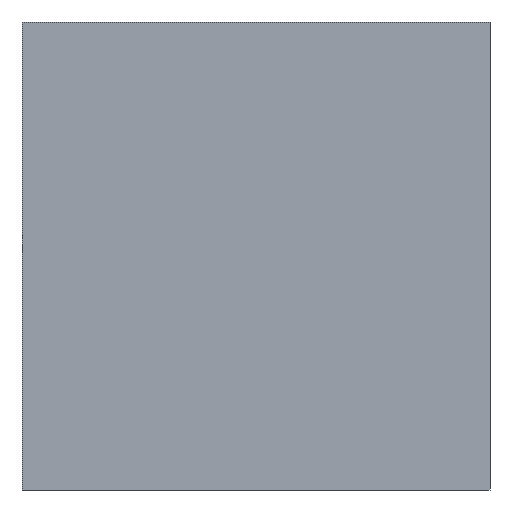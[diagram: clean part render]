
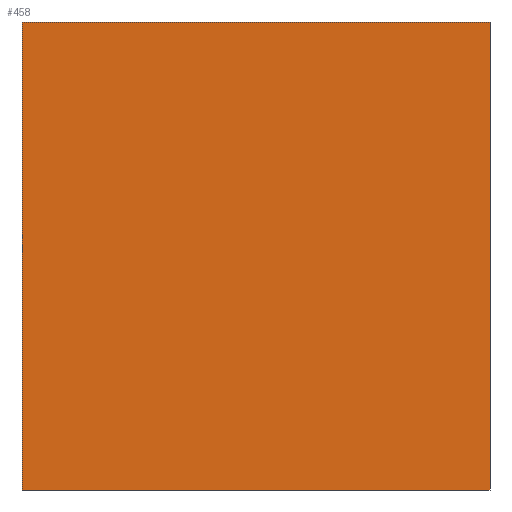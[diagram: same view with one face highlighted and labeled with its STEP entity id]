
A CAD part, left-side view. The second image highlights one B-rep face of the part: STEP entity #458.
In plain terms, the highlighted planar face has unit normal (-1, 0, 0).
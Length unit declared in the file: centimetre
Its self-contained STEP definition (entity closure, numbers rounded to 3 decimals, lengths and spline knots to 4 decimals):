
#9 = ORIENTED_EDGE ( 'NONE', *, *, #931, .T. ) ;
#41 = VERTEX_POINT ( 'NONE', #454 ) ;
#64 = PLANE ( 'NONE',  #143 ) ;
#83 = DIRECTION ( 'NONE',  ( 0., 0., -1. ) ) ;
#101 = VECTOR ( 'NONE', #306, 100. ) ;
#102 = ORIENTED_EDGE ( 'NONE', *, *, #136, .F. ) ;
#119 = DIRECTION ( 'NONE',  ( 0., -1., 0. ) ) ;
#136 = EDGE_CURVE ( 'NONE', #973, #491, #1011, .T. ) ;
#143 = AXIS2_PLACEMENT_3D ( 'NONE', #533, #996, #918 ) ;
#180 = ORIENTED_EDGE ( 'NONE', *, *, #828, .T. ) ;
#252 = CARTESIAN_POINT ( 'NONE',  ( 0., 1000., 1000. ) ) ;
#291 = FACE_OUTER_BOUND ( 'NONE', #337, .T. ) ;
#301 = CARTESIAN_POINT ( 'NONE',  ( 0., 0., 1000. ) ) ;
#306 = DIRECTION ( 'NONE',  ( 0., -1., 0. ) ) ;
#319 = VECTOR ( 'NONE', #83, 100. ) ;
#337 = EDGE_LOOP ( 'NONE', ( #9, #838, #102, #180 ) ) ;
#424 = DIRECTION ( 'NONE',  ( 0., 0., -1. ) ) ;
#454 = CARTESIAN_POINT ( 'NONE',  ( 0., 1000., 0. ) ) ;
#458 = ADVANCED_FACE ( 'NONE', ( #291 ), #64, .F. ) ;
#471 = VERTEX_POINT ( 'NONE', #839 ) ;
#491 = VERTEX_POINT ( 'NONE', #301 ) ;
#503 = CARTESIAN_POINT ( 'NONE',  ( 0., 1000., 0. ) ) ;
#533 = CARTESIAN_POINT ( 'NONE',  ( 0., 1000., 1000. ) ) ;
#613 = EDGE_CURVE ( 'NONE', #491, #471, #635, .T. ) ;
#635 = LINE ( 'NONE', #941, #319 ) ;
#660 = LINE ( 'NONE', #503, #923 ) ;
#754 = CARTESIAN_POINT ( 'NONE',  ( 0., 1000., 1000. ) ) ;
#760 = CARTESIAN_POINT ( 'NONE',  ( 0., 1000., 1000. ) ) ;
#828 = EDGE_CURVE ( 'NONE', #973, #41, #897, .T. ) ;
#838 = ORIENTED_EDGE ( 'NONE', *, *, #613, .F. ) ;
#839 = CARTESIAN_POINT ( 'NONE',  ( 0., 0., 0. ) ) ;
#897 = LINE ( 'NONE', #252, #906 ) ;
#906 = VECTOR ( 'NONE', #424, 100. ) ;
#918 = DIRECTION ( 'NONE',  ( 0., 0., -1. ) ) ;
#923 = VECTOR ( 'NONE', #119, 100. ) ;
#931 = EDGE_CURVE ( 'NONE', #41, #471, #660, .T. ) ;
#941 = CARTESIAN_POINT ( 'NONE',  ( 0., 0., 1000. ) ) ;
#973 = VERTEX_POINT ( 'NONE', #754 ) ;
#996 = DIRECTION ( 'NONE',  ( 1., 0., 0. ) ) ;
#1011 = LINE ( 'NONE', #760, #101 ) ;
